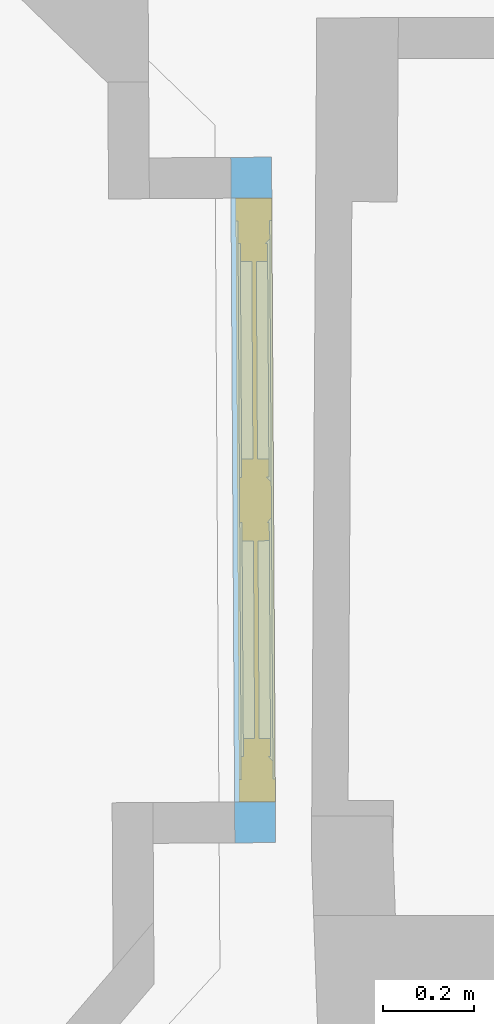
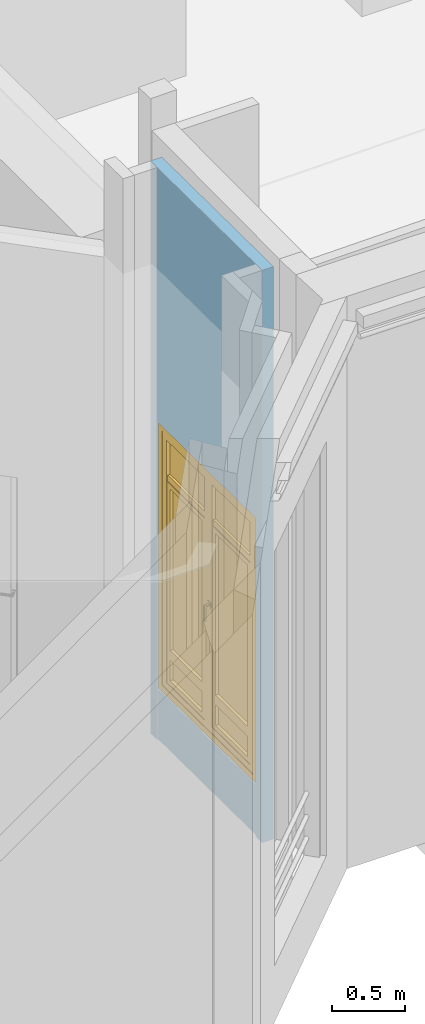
# One storey, part 43 of 97: 1 window, 2 openings, plus 1 element that does not belong to this part.
"""IFC2X3 building model written with IfcOpenShell, lengths in centimetres."""

from ifc_helpers import new_model, entity, si_unit, converted_unit, direction, frame, origin, origin_with_axes, origin_2d_with_axis, place, context, subcontext, project, spatial, polyline, rectangle, outline, extrude, faceted_brep, shape, source, transform, mapped, material, material_list, layer, layer_set, layer_usage, type_object, element, fill, save


model = new_model("IFC2X3")

# Units and contexts
model_context = context("Model", 3, precision=0.0001, world=origin(), true_north=direction((0.225632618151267, 0.974212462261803, 0.0)))
body_context = subcontext(model_context, "Body", "Model", "MODEL_VIEW")
footprint_context = subcontext(model_context, "FootPrint", "Model", "MODEL_VIEW")
profile_context = subcontext(model_context, "Profile", "Model", "MODEL_VIEW")
ifc_project = project(units=[si_unit("LENGTHUNIT", "METRE", prefix="CENTI"), si_unit("AREAUNIT", "SQUARE_METRE", prefix="CENTI"), si_unit("VOLUMEUNIT", "CUBIC_METRE", prefix="CENTI"), converted_unit("PLANEANGLEUNIT", "DEGREE", entity("IfcRatioMeasure", 0.0174532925), si_unit("PLANEANGLEUNIT", "RADIAN"), dimensions=[0, 0, 0, 0, 0, 0, 0])], contexts=[model_context])

# Site, building, storey
site_placement = place(None, origin_with_axes())
site = spatial("IfcSite", under=ifc_project, at=site_placement, Name="Default Site", CompositionType="ELEMENT")
building_placement = place(site_placement, origin_with_axes())
building = spatial("IfcBuilding", under=site, at=building_placement, Name="Default Building", CompositionType="ELEMENT")
storey_placement = place(building_placement, origin_with_axes())
storey = spatial("IfcBuildingStorey", under=building, at=storey_placement, Name="Rez-de-chaussée", CompositionType="ELEMENT", Elevation=0.0)

# Wall, openings, window
ifc_material_1 = material(Name="<aucun>")
ifc_layer = layer(ifc_material_1, 9.0)
ifc_layer_set = layer_set([ifc_layer], Name="default")
ifc_layer_usage = layer_usage(ifc_layer_set, "AXIS2", "POSITIVE", -4.5)
wall_type = type_object("IfcWallType", Name="default 90", PredefinedType="NOTDEFINED", material=ifc_layer_set)
wall_placement = place(storey_placement, frame((-688.772430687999, -910.606427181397, 0.0128503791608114), z_axis=(0.0, 0.0, 1.0), x_axis=(-0.00596125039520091, 0.999982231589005, 0.0)))
wall = element("IfcWallStandardCase", 1, at=wall_placement, inside=storey, type_object=wall_type, material=ifc_layer_usage, Name="Enveloppe 664555", context=body_context, shape_type="SweptSolid", body=[
    extrude(rectangle(XDim=8.99999999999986, YDim=151.151033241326, at=origin_2d_with_axis()), frame((71.075516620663, -1.24344978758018e-12, -2.71050543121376e-18), z_axis=(0.0, 0.0, 1.0), x_axis=(-3.9415519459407e-14, -1.0, 0.0)), (0.0, 0.0, 1.0), 477.795358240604),
])
opening_1_placement = place(wall_placement, frame((4.50000000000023, 0.0, 4.9960036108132e-14), z_axis=(0.0, 0.0, 1.0), x_axis=(1.0, -1.96596211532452e-14, 0.0)))
cartesian_point_1 = entity("IfcCartesianPoint", [-1.77635683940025e-13, 0.0, 43.0])
cartesian_point_2 = entity("IfcCartesianPoint", [133.151005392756, 4.4999999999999])
element("IfcOpeningElement", 2, at=opening_1_placement, cuts=wall, Name="Baie 41618", ObjectType="Recess", shapes=[
    shape(body_context, "Body", "Brep", [faceted_brep([(-1.72858031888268e-05, 24.4999767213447, 43.0000010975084), (133.151019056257, 24.4999767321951, 43.0000010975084), (133.151019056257, 24.4999767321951, -4.62657695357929e-10), (-1.72858031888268e-05, 24.4999767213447, -4.62657695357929e-10), (-1.72840919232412e-05, 3.49998105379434, -4.62657695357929e-10), (-1.72840919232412e-05, 3.49998105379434, 43.0000010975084), (133.151019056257, 24.500020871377, -4.62657695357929e-10), (133.151002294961, 3.49997780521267, -4.62657695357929e-10), (1.39200231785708e-05, 3.49998105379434, -4.62657695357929e-10), (133.151019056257, 24.500020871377, 43.0000010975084), (133.151019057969, 3.49997780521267, 43.0000010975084), (133.151019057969, 3.49997780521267, -4.62657695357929e-10), (1.39200231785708e-05, 3.49998105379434, 43.0000010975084), (133.151002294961, 3.49997780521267, 43.0000010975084), (133.151002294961, 3.49998106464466, -4.62657695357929e-10), (133.151002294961, 3.49998106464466, 43.0000010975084)], [[[0, 1, 2, 3]], [[3, 4, 5, 0]], [[6, 7, 8, 3]], [[9, 10, 11, 6]], [[0, 12, 13, 9]], [[12, 8, 14, 15]]])]),
    shape(profile_context, "Profile", "GeometricCurveSet", [entity("IfcGeometricCurveSet", [entity("IfcPolyline", [cartesian_point_1, entity("IfcCartesianPoint", [-1.77635683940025e-13, 0.0, 0.0]), entity("IfcCartesianPoint", [133.151005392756, 0.0, 0.0]), entity("IfcCartesianPoint", [133.151005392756, 0.0, 43.0]), cartesian_point_1])])]),
    shape(footprint_context, "FootPrint", "GeometricCurveSet", [entity("IfcGeometricCurveSet", [entity("IfcPolyline", [cartesian_point_2, entity("IfcCartesianPoint", [-1.77635683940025e-13, 4.4999999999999]), entity("IfcCartesianPoint", [0.0, -4.49999999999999]), entity("IfcCartesianPoint", [133.151005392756, -4.49999999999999]), cartesian_point_2])])]),
])
opening_2_placement = place(wall_placement, frame((4.50002772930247, -1.13686837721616e-13, 43.1712593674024), z_axis=(0.0, 0.0, 1.0), x_axis=(1.0, -1.96587537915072e-14, 0.0)))
cartesian_point_3 = entity("IfcCartesianPoint", [-1.77635683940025e-13, 0.0, 222.65721376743])
cartesian_point_4 = entity("IfcCartesianPoint", [133.151005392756, 4.50000000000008])
opening_2 = element("IfcOpeningElement", 3, at=opening_2_placement, cuts=wall, Name="4294966457_11", ObjectType="Opening", shapes=[
    shape(body_context, "Body", "SweptSolid", [extrude(outline(polyline([(-3.5527136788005e-13, 222.65721376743), (-3.5527136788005e-13, 0.0), (133.151005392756, 0.0), (133.151005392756, 222.65721376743), (-3.5527136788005e-13, 222.65721376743)])), frame((0.0, 14.5, 0.0), z_axis=(0.0, -1.0, 0.0), x_axis=(1.0, 0.0, 0.0)), (0.0, 0.0, 1.0), 29.0)]),
    shape(profile_context, "Profile", "GeometricCurveSet", [entity("IfcGeometricCurveSet", [entity("IfcPolyline", [cartesian_point_3, entity("IfcCartesianPoint", [-1.77635683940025e-13, 0.0, 0.0]), entity("IfcCartesianPoint", [133.151005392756, 0.0, 0.0]), entity("IfcCartesianPoint", [133.151005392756, 0.0, 222.65721376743]), cartesian_point_3])])]),
    shape(footprint_context, "FootPrint", "GeometricCurveSet", [entity("IfcGeometricCurveSet", [entity("IfcPolyline", [cartesian_point_4, entity("IfcCartesianPoint", [-3.5527136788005e-13, 4.49999999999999]), entity("IfcCartesianPoint", [-1.77635683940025e-13, -4.49999999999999]), entity("IfcCartesianPoint", [133.151005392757, -4.4999999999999]), cartesian_point_4])])]),
])
ifc_material_2 = material(Name="Transparent")
ifc_material_3 = material(Name="Blanc gris")
ifc_material_4 = material(Name="Aluminium satiné")
ifc_material_5 = material(Name="Blanc trafic")
ifc_material_list = material_list([ifc_material_2, ifc_material_3, ifc_material_4, ifc_material_5])
window_style = type_object("IfcWindowStyle", Name="FN[R] 2VB[2V] MM", ConstructionType="NOTDEFINED", OperationType="NOTDEFINED", ParameterTakesPrecedence=False, Sizeable=False, material=ifc_material_list)
shared_shape = source(origin_with_axes(), body_context, "Body", "Brep", [
    faceted_brep([(-61.5755021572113, 217.657208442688, -3.99999991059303), (-61.5755021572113, 217.657208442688, 3.99999991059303), (-61.5755021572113, 5.00000007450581, 3.99999991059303), (-61.5755021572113, 5.00000007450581, -3.99999991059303), (-66.5755033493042, 222.657203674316, 3.99999991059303), (-66.5755033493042, 5.55111512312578e-15, 3.99999991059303), (-66.5755033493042, 222.657203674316, -3.99999991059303), (-66.5755033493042, 5.55111512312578e-15, -3.99999991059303), (61.5755021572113, 5.00000007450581, 3.99999991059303), (61.5755021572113, 5.00000007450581, -3.99999991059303), (66.5755033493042, 5.55111512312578e-15, 3.99999991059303), (66.5755033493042, 5.55111512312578e-15, -3.99999991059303), (61.5755021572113, 217.657208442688, 3.99999991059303), (61.5755021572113, 217.657208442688, -3.99999991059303), (66.5755033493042, 222.657203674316, 3.99999991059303), (66.5755033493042, 222.657203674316, -3.99999991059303)], [[[0, 1, 2, 3]], [[1, 4, 5, 2]], [[4, 6, 7, 5]], [[6, 0, 3, 7]], [[3, 2, 8, 9]], [[2, 5, 10, 8]], [[5, 7, 11, 10]], [[7, 3, 9, 11]], [[9, 8, 12, 13]], [[8, 10, 14, 12]], [[10, 11, 15, 14]], [[11, 9, 13, 15]], [[13, 12, 1, 0]], [[12, 14, 4, 1]], [[14, 15, 6, 4]], [[15, 13, 0, 6]]]),
    faceted_brep([(-57.5755000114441, 213.657212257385, -3.50000001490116), (-56.5755004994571, 212.65721321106, -2.50000050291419), (-56.5755004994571, 10.0000001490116, -2.50000050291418), (-57.5755000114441, 9.00000035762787, -3.50000001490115), (-56.5755009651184, 212.65721321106, -2.5000000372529), (-56.5755009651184, 212.65721321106, 3.50000001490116), (-56.5755009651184, 10.0000001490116, 3.50000001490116), (-56.5755009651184, 10.0000001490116, -2.5000000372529), (-61.5755021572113, 217.657208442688, 3.50000001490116), (-61.5755021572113, 5.00000007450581, 3.50000001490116), (-61.5755021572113, 217.657208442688, -3.50000001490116), (-61.5755021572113, 5.00000007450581, -3.50000001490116), (-57.5755000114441, 9.00000035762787, -3.50000001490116), (-56.5755009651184, 10.0000002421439, -2.50000013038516), (-5.00000007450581, 10.0000002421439, -2.50000013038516), (-3.99999991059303, 9.00000035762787, -3.50000001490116), (-5.00000007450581, 10.0000001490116, 3.50000001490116), (-5.00000007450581, 10.0000001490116, -2.5000000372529), (-1.88737914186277e-13, 5.00000007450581, 3.50000001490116), (-1.88737914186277e-13, 5.00000007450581, -3.50000001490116), (-4.99999998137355, 10.0000001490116, -2.49999994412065), (-4.99999998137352, 212.65721321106, -2.49999994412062), (-3.999999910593, 213.657212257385, -3.50000001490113), (-5.00000007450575, 212.65721321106, 3.50000001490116), (-5.00000007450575, 212.65721321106, -2.5000000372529), (-1.77635683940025e-13, 217.657208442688, 3.50000001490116), (-5.00000007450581, 212.65721321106, 3.50000001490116), (-1.77635684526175e-13, 217.657208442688, -3.50000001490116), (-1.77635684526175e-13, 217.657208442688, 3.50000001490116), (-3.99999991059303, 213.657212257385, -3.50000001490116), (-1.77635683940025e-13, 217.657208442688, -3.50000001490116), (-5.00000007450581, 212.657212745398, -2.50000050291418), (-56.5755009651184, 212.657212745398, -2.50000050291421), (-57.5755000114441, 213.657212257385, -3.50000001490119), (-5.00000007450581, 212.65721321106, -2.5000000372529)], [[[0, 1, 2, 3]], [[4, 5, 6, 7]], [[5, 8, 9, 6]], [[8, 10, 11, 9]], [[10, 0, 12, 11]], [[12, 13, 14, 15]], [[7, 6, 16, 17]], [[6, 9, 18, 16]], [[9, 11, 19, 18]], [[11, 12, 15, 19]], [[15, 20, 21, 22]], [[17, 16, 23, 24]], [[16, 18, 25, 26]], [[18, 19, 27, 28]], [[19, 15, 29, 30]], [[29, 31, 32, 33]], [[34, 26, 5, 4]], [[26, 25, 8, 5]], [[25, 30, 10, 8]], [[30, 29, 0, 10]]]),
    faceted_brep([(-5.00000007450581, 212.65721321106, -0.499999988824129), (-5.00000007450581, 183.008635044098, -0.499999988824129), (-56.5755009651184, 183.008635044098, -0.499999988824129), (-56.5755009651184, 212.65721321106, -0.499999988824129), (-56.5755009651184, 212.65721321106, 0.499999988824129), (-56.5755009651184, 183.008635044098, 0.499999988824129), (-5.00000007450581, 183.008635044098, 0.499999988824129), (-5.00000007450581, 212.65721321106, 0.499999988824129)], [[[0, 1, 2, 3]], [[4, 5, 6, 7]], [[3, 2, 5, 4]], [[2, 1, 6, 5]], [[1, 0, 7, 6]], [[0, 3, 4, 7]]]),
    faceted_brep([(-5.00000007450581, 178.008627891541, 2.5000000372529), (-5.00000007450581, 178.008627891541, -2.5000000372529), (-5.00000007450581, 183.008635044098, -2.5000000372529), (-5.00000007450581, 183.008635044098, 2.5000000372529), (-56.5755009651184, 183.008635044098, 2.5000000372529), (-56.5755009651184, 183.008635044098, -2.5000000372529), (-56.5755009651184, 178.008627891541, -2.5000000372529), (-56.5755009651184, 178.008627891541, 2.5000000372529)], [[[0, 1, 2, 3]], [[4, 5, 6, 7]], [[3, 2, 5, 4]], [[2, 1, 6, 5]], [[1, 0, 7, 6]], [[0, 3, 4, 7]]]),
    faceted_brep([(-52.5755047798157, 174.008631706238, -2.99999993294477), (-52.5755047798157, 174.008631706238, 2.99999993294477), (-52.5755047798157, 39.201295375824, 2.99999993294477), (-52.5755047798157, 39.201295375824, -2.99999993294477), (-56.5755009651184, 178.008627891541, 2.99999993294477), (-56.5755009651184, 35.201296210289, 2.99999993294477), (-56.5755009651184, 178.008627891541, -2.99999993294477), (-56.5755009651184, 35.201296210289, -2.99999993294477), (-9.00000035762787, 39.201295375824, 2.99999993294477), (-9.00000035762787, 39.201295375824, -2.99999993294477), (-5.00000007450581, 35.201296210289, 2.99999993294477), (-5.00000007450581, 35.201296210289, -2.99999993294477), (-9.00000035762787, 174.008631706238, 2.99999993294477), (-9.00000035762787, 174.008631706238, -2.99999993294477), (-5.00000007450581, 178.008627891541, 2.99999993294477), (-5.0000000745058, 178.008627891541, -2.99999993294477), (-5.0000000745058, 178.008627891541, 2.99999993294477), (-5.00000007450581, 178.008627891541, -2.99999993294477)], [[[0, 1, 2, 3]], [[1, 4, 5, 2]], [[4, 6, 7, 5]], [[6, 0, 3, 7]], [[3, 2, 8, 9]], [[2, 5, 10, 8]], [[5, 7, 11, 10]], [[7, 3, 9, 11]], [[9, 8, 12, 13]], [[8, 10, 14, 12]], [[10, 11, 15, 16]], [[11, 9, 13, 17]], [[13, 12, 1, 0]], [[12, 14, 4, 1]], [[14, 17, 6, 4]], [[17, 13, 0, 6]]]),
    faceted_brep([(-9.00000035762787, 174.008631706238, -0.499999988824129), (-9.00000035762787, 39.201295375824, -0.499999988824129), (-52.5755047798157, 39.201295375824, -0.499999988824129), (-52.5755047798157, 174.008631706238, -0.499999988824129), (-52.5755047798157, 174.008631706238, 0.499999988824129), (-52.5755047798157, 39.201295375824, 0.499999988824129), (-9.00000035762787, 39.201295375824, 0.499999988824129), (-9.00000035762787, 174.008631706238, 0.499999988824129), (-9.00000035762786, 174.008631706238, -0.499999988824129), (-9.00000035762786, 174.008631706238, 0.499999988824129)], [[[0, 1, 2, 3]], [[4, 5, 6, 7]], [[3, 2, 5, 4]], [[2, 1, 6, 5]], [[1, 8, 9, 6]], [[0, 3, 4, 7]]]),
    faceted_brep([(-52.5755047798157, 31.2012940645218, -2.99999993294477), (-52.5755047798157, 31.2012940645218, 2.99999993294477), (-52.5755047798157, 14.0000000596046, 2.99999993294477), (-52.5755047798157, 14.0000000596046, -2.99999993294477), (-56.5755009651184, 35.201296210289, 2.99999993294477), (-56.5755009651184, 10.0000001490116, 2.99999993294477), (-56.5755009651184, 35.201296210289, -2.99999993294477), (-56.5755009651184, 10.0000001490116, -2.99999993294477), (-9.00000035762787, 14.0000000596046, 2.99999993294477), (-9.00000035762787, 14.0000000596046, -2.99999993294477), (-5.00000007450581, 10.0000001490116, 2.99999993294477), (-5.00000007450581, 10.0000001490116, -2.99999993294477), (-9.00000035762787, 31.2012940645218, 2.99999993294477), (-9.00000035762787, 31.2012940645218, -2.99999993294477), (-5.00000007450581, 35.201296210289, 2.99999993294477), (-5.00000007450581, 35.201296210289, -2.99999993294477)], [[[0, 1, 2, 3]], [[1, 4, 5, 2]], [[4, 6, 7, 5]], [[6, 0, 3, 7]], [[3, 2, 8, 9]], [[2, 5, 10, 8]], [[5, 7, 11, 10]], [[7, 3, 9, 11]], [[9, 8, 12, 13]], [[8, 10, 14, 12]], [[10, 11, 15, 14]], [[11, 9, 13, 15]], [[13, 12, 1, 0]], [[12, 14, 4, 1]], [[14, 15, 6, 4]], [[15, 13, 0, 6]]]),
    faceted_brep([(-9.00000035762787, 31.2012940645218, -0.499999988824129), (-9.00000035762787, 14.0000000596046, -0.499999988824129), (-52.5755047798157, 14.0000000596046, -0.499999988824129), (-52.5755047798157, 31.2012940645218, -0.499999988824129), (-52.5755047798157, 31.2012940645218, 0.499999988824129), (-52.5755047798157, 14.0000000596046, 0.499999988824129), (-9.00000035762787, 14.0000000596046, 0.499999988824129), (-9.00000035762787, 31.2012940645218, 0.499999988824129)], [[[0, 1, 2, 3]], [[4, 5, 6, 7]], [[3, 2, 5, 4]], [[2, 1, 6, 5]], [[1, 0, 7, 6]], [[0, 3, 4, 7]]]),
    faceted_brep([(3.99999991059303, 213.657212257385, -3.50000001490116), (4.99999998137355, 212.65721321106, -2.49999994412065), (4.99999998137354, 10.0000001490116, -2.49999994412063), (3.99999991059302, 9.00000035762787, -3.50000001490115), (5.00000007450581, 212.65721321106, -2.5000000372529), (5.00000007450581, 212.65721321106, 3.50000001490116), (5.00000007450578, 10.0000001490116, 3.50000001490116), (5.00000007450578, 10.0000001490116, -2.5000000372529), (-1.77635683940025e-13, 217.657208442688, 3.50000001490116), (-1.88737914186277e-13, 5.00000007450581, 3.50000001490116), (5.00000007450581, 10.0000001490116, 3.50000001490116), (-1.77635683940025e-13, 217.657208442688, -3.50000001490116), (-1.88737913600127e-13, 5.00000007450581, -3.50000001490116), (-1.88737913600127e-13, 5.00000007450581, 3.50000001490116), (3.99999991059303, 9.00000035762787, -3.50000001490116), (-1.88737914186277e-13, 5.00000007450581, -3.50000001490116), (5.00000007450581, 10.0000002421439, -2.50000013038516), (56.5755009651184, 10.0000002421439, -2.50000013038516), (57.5755000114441, 9.00000035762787, -3.50000001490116), (5.00000007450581, 10.0000001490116, -2.5000000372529), (56.5755009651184, 10.0000001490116, 3.50000001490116), (56.5755009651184, 10.0000001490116, -2.5000000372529), (61.5755021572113, 5.00000007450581, 3.50000001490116), (61.5755021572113, 5.00000007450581, -3.50000001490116), (56.5755004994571, 10.0000001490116, -2.50000050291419), (56.5755004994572, 212.65721321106, -2.50000050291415), (57.5755000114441, 213.657212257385, -3.50000001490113), (56.5755009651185, 212.65721321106, 3.50000001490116), (56.5755009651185, 212.65721321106, -2.5000000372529), (61.5755021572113, 217.657208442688, 3.50000001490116), (56.5755009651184, 212.65721321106, 3.50000001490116), (61.5755021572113, 217.657208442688, -3.50000001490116), (57.5755000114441, 213.657212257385, -3.50000001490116), (56.5755009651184, 212.657212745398, -2.50000050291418), (5.00000007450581, 212.657212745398, -2.50000050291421), (3.99999991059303, 213.657212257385, -3.50000001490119), (56.5755009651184, 212.65721321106, -2.5000000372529)], [[[0, 1, 2, 3]], [[4, 5, 6, 7]], [[5, 8, 9, 10]], [[8, 11, 12, 13]], [[11, 0, 14, 15]], [[14, 16, 17, 18]], [[19, 10, 20, 21]], [[10, 9, 22, 20]], [[9, 15, 23, 22]], [[15, 14, 18, 23]], [[18, 24, 25, 26]], [[21, 20, 27, 28]], [[20, 22, 29, 30]], [[22, 23, 31, 29]], [[23, 18, 32, 31]], [[32, 33, 34, 35]], [[36, 30, 5, 4]], [[30, 29, 8, 5]], [[29, 31, 11, 8]], [[31, 32, 0, 11]]]),
    faceted_brep([(4.50000017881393, 113.328611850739, 3.50000001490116), (4.50000017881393, 109.328603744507, 3.50000001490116), (0.499999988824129, 109.328603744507, 3.50000001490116), (0.499999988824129, 113.328611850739, 3.50000001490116), (0.499999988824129, 113.328611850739, 4.30000014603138), (0.499999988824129, 109.328603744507, 4.30000014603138), (4.50000017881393, 109.328603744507, 4.30000014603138), (4.50000017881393, 113.328611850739, 4.30000014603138)], [[[0, 1, 2, 3]], [[4, 5, 6, 7]], [[3, 2, 5, 4]], [[2, 1, 6, 5]], [[1, 0, 7, 6]], [[0, 3, 4, 7]]]),
    faceted_brep([(3.24999988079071, 111.828601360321, 4.30000014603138), (3.24999988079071, 110.828602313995, 4.30000014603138), (1.75000000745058, 110.828602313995, 4.30000014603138), (1.75000000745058, 111.828601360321, 4.30000014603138), (1.75000000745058, 111.828601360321, 8.29999968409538), (1.75000000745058, 110.828601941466, 7.30000026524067), (3.24999988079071, 110.828601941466, 7.30000026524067), (3.24999988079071, 111.828601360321, 8.29999968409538), (1.75000000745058, 110.828602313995, 7.29999989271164), (3.24999988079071, 110.828602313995, 7.29999989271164)], [[[0, 1, 2, 3]], [[4, 5, 6, 7]], [[3, 2, 8, 4]], [[2, 1, 9, 8]], [[1, 0, 7, 9]], [[0, 3, 4, 7]]]),
    faceted_brep([(3.24999988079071, 111.828601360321, 8.29999968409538), (3.24999988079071, 110.828601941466, 7.30000026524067), (1.75000000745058, 110.828601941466, 7.30000026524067), (1.75000000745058, 111.828601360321, 8.29999968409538), (1.75000000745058, 98.8286077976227, 8.29999968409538), (1.75000000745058, 98.8286077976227, 7.29999989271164), (3.24999988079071, 98.8286077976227, 7.29999989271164), (3.24999988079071, 98.8286077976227, 8.29999968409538), (1.75000000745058, 110.828602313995, 7.29999989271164), (3.24999988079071, 110.828602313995, 7.29999989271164)], [[[0, 1, 2, 3]], [[4, 5, 6, 7]], [[3, 8, 5, 4]], [[8, 9, 6, 5]], [[9, 0, 7, 6]], [[0, 3, 4, 7]]]),
    faceted_brep([(56.5755009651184, 212.65721321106, -0.499999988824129), (56.5755009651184, 183.008635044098, -0.499999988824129), (5.00000007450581, 183.008635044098, -0.499999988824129), (5.00000007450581, 212.65721321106, -0.499999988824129), (5.00000007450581, 212.65721321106, 0.499999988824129), (5.00000007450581, 183.008635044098, 0.499999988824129), (56.5755009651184, 183.008635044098, 0.499999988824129), (56.5755009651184, 212.65721321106, 0.499999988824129), (5.0000000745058, 183.008635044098, -0.499999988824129), (5.0000000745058, 183.008635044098, 0.499999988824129)], [[[0, 1, 2, 3]], [[4, 5, 6, 7]], [[3, 8, 9, 4]], [[2, 1, 6, 5]], [[1, 0, 7, 6]], [[0, 3, 4, 7]]]),
    faceted_brep([(56.5755009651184, 178.008627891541, 2.5000000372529), (56.5755009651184, 178.008627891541, -2.5000000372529), (56.5755009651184, 183.008635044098, -2.5000000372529), (56.5755009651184, 183.008635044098, 2.5000000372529), (5.00000007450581, 183.008635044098, 2.5000000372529), (5.00000007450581, 183.008635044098, -2.5000000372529), (5.00000007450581, 178.008627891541, -2.5000000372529), (5.00000007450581, 178.008627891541, 2.5000000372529)], [[[0, 1, 2, 3]], [[4, 5, 6, 7]], [[3, 2, 5, 4]], [[2, 1, 6, 5]], [[1, 0, 7, 6]], [[0, 3, 4, 7]]]),
    faceted_brep([(9.00000035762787, 174.008631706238, -2.99999993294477), (9.00000035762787, 174.008631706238, 2.99999993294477), (9.00000035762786, 39.201295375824, 2.99999993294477), (9.00000035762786, 39.201295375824, -2.99999993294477), (5.00000007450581, 178.008627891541, 2.99999993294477), (5.00000007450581, 35.201296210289, 2.99999993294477), (9.00000035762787, 39.201295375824, 2.99999993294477), (5.00000007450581, 178.008627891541, -2.99999993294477), (5.00000007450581, 35.201296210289, -2.99999993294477), (9.00000035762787, 39.201295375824, -2.99999993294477), (52.5755047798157, 39.201295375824, 2.99999993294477), (52.5755047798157, 39.201295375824, -2.99999993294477), (56.5755009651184, 35.201296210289, 2.99999993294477), (56.5755009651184, 35.201296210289, -2.99999993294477), (52.5755047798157, 174.008631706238, 2.99999993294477), (52.5755047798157, 174.008631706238, -2.99999993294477), (56.5755009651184, 178.008627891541, 2.99999993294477), (56.5755009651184, 178.008627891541, -2.99999993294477)], [[[0, 1, 2, 3]], [[1, 4, 5, 6]], [[4, 7, 8, 5]], [[7, 0, 9, 8]], [[9, 6, 10, 11]], [[6, 5, 12, 10]], [[5, 8, 13, 12]], [[8, 9, 11, 13]], [[11, 10, 14, 15]], [[10, 12, 16, 14]], [[12, 13, 17, 16]], [[13, 11, 15, 17]], [[15, 14, 1, 0]], [[14, 16, 4, 1]], [[16, 17, 7, 4]], [[17, 15, 0, 7]]]),
    faceted_brep([(52.5755047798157, 174.008631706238, -0.499999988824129), (52.5755047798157, 39.201295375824, -0.499999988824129), (9.00000035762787, 39.201295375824, -0.499999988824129), (9.00000035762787, 174.008631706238, -0.499999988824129), (9.00000035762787, 174.008631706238, 0.499999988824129), (9.00000035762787, 39.201295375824, 0.499999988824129), (52.5755047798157, 39.201295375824, 0.499999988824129), (52.5755047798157, 174.008631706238, 0.499999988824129)], [[[0, 1, 2, 3]], [[4, 5, 6, 7]], [[3, 2, 5, 4]], [[2, 1, 6, 5]], [[1, 0, 7, 6]], [[0, 3, 4, 7]]]),
    faceted_brep([(9.00000035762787, 31.2012940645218, -2.99999993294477), (9.00000035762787, 31.2012940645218, 2.99999993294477), (9.00000035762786, 14.0000000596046, 2.99999993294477), (9.00000035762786, 14.0000000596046, -2.99999993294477), (5.00000007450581, 35.201296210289, 2.99999993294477), (5.00000007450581, 10.0000001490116, 2.99999993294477), (9.00000035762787, 14.0000000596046, 2.99999993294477), (5.00000007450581, 35.201296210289, -2.99999993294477), (5.00000007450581, 10.0000001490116, -2.99999993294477), (9.00000035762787, 14.0000000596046, -2.99999993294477), (52.5755047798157, 14.0000000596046, 2.99999993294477), (52.5755047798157, 14.0000000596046, -2.99999993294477), (56.5755009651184, 10.0000001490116, 2.99999993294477), (56.5755009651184, 10.0000001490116, -2.99999993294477), (52.5755047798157, 31.2012940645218, 2.99999993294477), (52.5755047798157, 31.2012940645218, -2.99999993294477), (56.5755009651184, 35.201296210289, 2.99999993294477), (56.5755009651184, 35.201296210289, -2.99999993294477)], [[[0, 1, 2, 3]], [[1, 4, 5, 6]], [[4, 7, 8, 5]], [[7, 0, 9, 8]], [[9, 6, 10, 11]], [[6, 5, 12, 10]], [[5, 8, 13, 12]], [[8, 9, 11, 13]], [[11, 10, 14, 15]], [[10, 12, 16, 14]], [[12, 13, 17, 16]], [[13, 11, 15, 17]], [[15, 14, 1, 0]], [[14, 16, 4, 1]], [[16, 17, 7, 4]], [[17, 15, 0, 7]]]),
    faceted_brep([(52.5755047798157, 31.2012940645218, -0.499999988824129), (52.5755047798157, 14.0000000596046, -0.499999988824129), (9.00000035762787, 14.0000000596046, -0.499999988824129), (9.00000035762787, 31.2012940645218, -0.499999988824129), (9.00000035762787, 31.2012940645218, 0.499999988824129), (9.00000035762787, 14.0000000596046, 0.499999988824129), (52.5755047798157, 14.0000000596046, 0.499999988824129), (52.5755047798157, 31.2012940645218, 0.499999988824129), (9.00000035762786, 14.0000000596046, -0.499999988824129), (9.00000035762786, 14.0000000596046, 0.499999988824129)], [[[0, 1, 2, 3]], [[4, 5, 6, 7]], [[3, 8, 9, 4]], [[2, 1, 6, 5]], [[1, 0, 7, 6]], [[0, 3, 4, 7]]]),
])
window_placement = place(opening_2_placement, frame((-1.13686837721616e-13, -4.50000000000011, -7.105427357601e-15), z_axis=(0.0, 0.0, 1.0), x_axis=(1.0, 0.0, 0.0)))
window = element("IfcWindow", 4, at=window_placement, inside=storey, type_object=window_style, material=ifc_material_list, Name="Fenêtre 23593", OverallHeight=222.65721376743, OverallWidth=133.151005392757, context=body_context, shape_type="MappedRepresentation", body=[
    mapped(shared_shape, transform((66.5755026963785, 4.00000000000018, 0.0), x_axis=(-1.0, 8.67361737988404e-19, 0.0), y_axis=(0.0, 0.0, 1.0), z_axis=(8.67361737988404e-19, 1.0, 0.0), scale=1.0, scale2=1.0, scale3=1.0, uniform=False)),
])
fill(opening_2, window)

save(model, "model.ifc")
